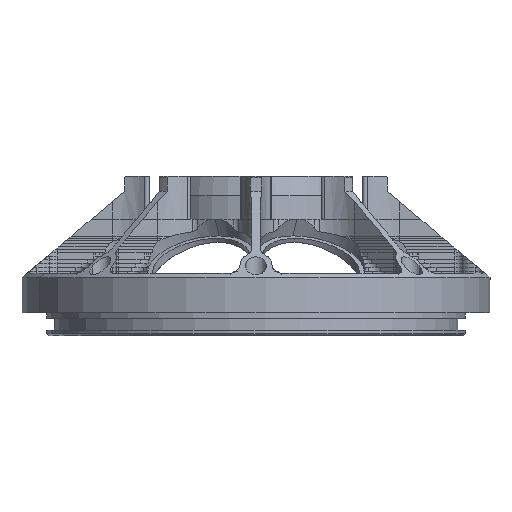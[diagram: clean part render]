
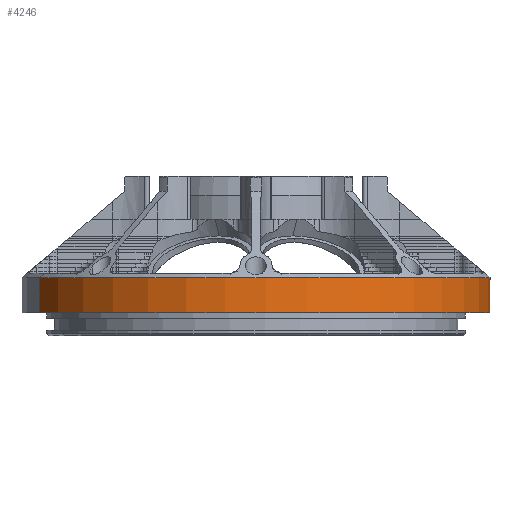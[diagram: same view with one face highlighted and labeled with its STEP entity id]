
A CAD part, left-side view. The second image highlights one B-rep face of the part: STEP entity #4246.
In plain terms, the highlighted cylindrical face has radius 79.8 mm (diameter 159.6 mm), a partial arc.
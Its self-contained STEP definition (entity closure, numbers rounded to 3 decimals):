
#885=CYLINDRICAL_SURFACE('',#48916,79.8);
#4246=ADVANCED_FACE('',(#6251),#885,.T.);
#6251=FACE_OUTER_BOUND('',#8308,.F.);
#8308=EDGE_LOOP('',(#10984,#10985,#10986,#10987));
#10984=ORIENTED_EDGE('',*,*,#38204,.T.);
#10985=ORIENTED_EDGE('',*,*,#37288,.F.);
#10986=ORIENTED_EDGE('',*,*,#38205,.F.);
#10987=ORIENTED_EDGE('',*,*,#38218,.T.);
#32444=LINE('',#69975,#34340);
#32445=LINE('',#69976,#34341);
#34340=VECTOR('',#51798,11.907);
#34341=VECTOR('',#51799,11.907);
#37288=EDGE_CURVE('',#46640,#46641,#41904,.T.);
#38204=EDGE_CURVE('',#45609,#46641,#32444,.T.);
#38205=EDGE_CURVE('',#45608,#46640,#32445,.T.);
#38218=EDGE_CURVE('',#45608,#45609,#42210,.T.);
#41904=CIRCLE('',#46970,79.8);
#42210=CIRCLE('',#47276,79.8);
#45608=VERTEX_POINT('',#62927);
#45609=VERTEX_POINT('',#62928);
#46640=VERTEX_POINT('',#63959);
#46641=VERTEX_POINT('',#63960);
#46970=AXIS2_PLACEMENT_3D('',#65547,#51172,#51173);
#47276=AXIS2_PLACEMENT_3D('',#69989,#51812,#51813);
#48916=AXIS2_PLACEMENT_3D('',#73345,#56808,#56809);
#51172=DIRECTION('',(0.,0.,-1.));
#51173=DIRECTION('',(0.383,-0.924,0.));
#51798=DIRECTION('',(0.,0.,1.));
#51799=DIRECTION('',(0.,0.,1.));
#51812=DIRECTION('',(0.,0.,-1.));
#51813=DIRECTION('',(0.383,-0.924,0.));
#56808=DIRECTION('',(0.,0.,-1.));
#56809=DIRECTION('',(0.383,-0.924,0.));
#62927=CARTESIAN_POINT('',(314.913,345.481,279.974));
#62928=CARTESIAN_POINT('',(253.837,492.933,279.974));
#63959=CARTESIAN_POINT('',(314.913,345.481,291.88));
#63960=CARTESIAN_POINT('',(253.837,492.933,291.88));
#65547=CARTESIAN_POINT('',(284.375,419.207,291.88));
#69975=CARTESIAN_POINT('',(253.837,492.933,279.974));
#69976=CARTESIAN_POINT('',(314.913,345.481,279.974));
#69989=CARTESIAN_POINT('',(284.375,419.207,279.974));
#73345=CARTESIAN_POINT('',(284.375,419.207,279.974));
